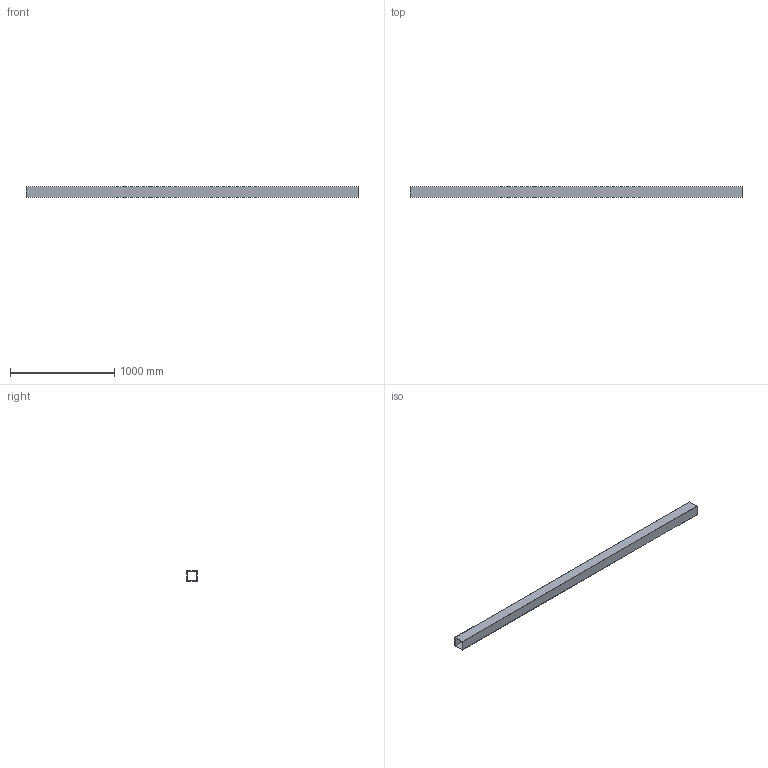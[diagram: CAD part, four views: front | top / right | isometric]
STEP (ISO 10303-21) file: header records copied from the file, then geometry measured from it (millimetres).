
FILE_DESCRIPTION(('golf model'),'2;1');
FILE_NAME('golf','',(''),(''),'golf_step_io','golf','');
FILE_SCHEMA(('AUTOMOTIVE_DESIGN { 1 0 10303 214 1 1 1 1 }'));
Length unit declared in the file: millimetre
Products named in the file (2): ASSEMBLY; floor_frame.front_rail
Assembly tree (1 placements, depth 2):
  ASSEMBLY
    floor_frame.front_rail
Bounding box: 3186 x 100 x 100 mm (x, y, z)
Volume: 4893696 mm3; surface area: 2449920 mm2
Topology: 1 solids, 1 shells, 10 faces, 24 edges, 16 vertices
Faces by surface type: plane 10
Entity records: 326 total; most frequent: CARTESIAN_POINT 52, DIRECTION 48, ORIENTED_EDGE 48, VECTOR 24, LINE 24, EDGE_CURVE 24, VERTEX_POINT 16, AXIS2_PLACEMENT_3D 12
